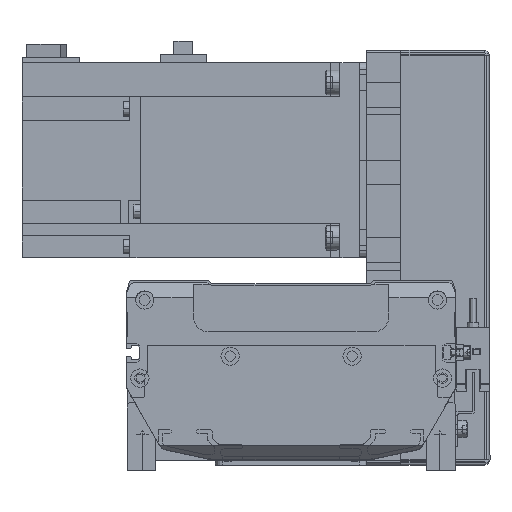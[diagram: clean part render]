
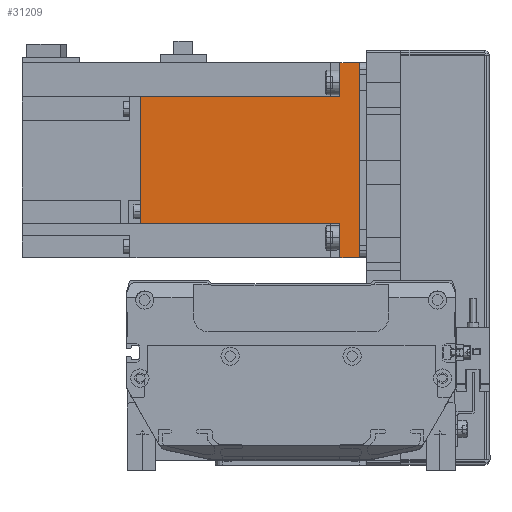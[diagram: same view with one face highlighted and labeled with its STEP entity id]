
A CAD part, front view. The second image highlights one B-rep face of the part: STEP entity #31209.
In plain terms, the highlighted planar face has unit normal (0, -1, 0) as drawn and (0, 0, 1) by its records, which use the part's own axes.
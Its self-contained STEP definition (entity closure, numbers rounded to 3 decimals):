
#45 = FACE_OUTER_BOUND ( 'NONE', #49812, .T. ) ;
#1217 = VERTEX_POINT ( 'NONE', #2743 ) ;
#2142 = AXIS2_PLACEMENT_3D ( 'NONE', #25749, #51827, #13779 ) ;
#2259 = VECTOR ( 'NONE', #9458, 1000. ) ;
#2585 = VECTOR ( 'NONE', #49908, 1000. ) ;
#2743 = CARTESIAN_POINT ( 'NONE',  ( -25.95, 8., 40. ) ) ;
#3276 = VECTOR ( 'NONE', #34469, 1000. ) ;
#5354 = LINE ( 'NONE', #46859, #18077 ) ;
#5496 = ORIENTED_EDGE ( 'NONE', *, *, #34082, .F. ) ;
#6351 = VERTEX_POINT ( 'NONE', #10761 ) ;
#7271 = DIRECTION ( 'NONE',  ( 1., 0., 0. ) ) ;
#8306 = CARTESIAN_POINT ( 'NONE',  ( -40., 89.8, 40. ) ) ;
#8314 = DIRECTION ( 'NONE',  ( 1., 0., 0. ) ) ;
#8920 = CARTESIAN_POINT ( 'NONE',  ( -40., 89.8, 40. ) ) ;
#9458 = DIRECTION ( 'NONE',  ( 0., -1., 0. ) ) ;
#9573 = CARTESIAN_POINT ( 'NONE',  ( -25.95, 89.8, 40. ) ) ;
#10761 = CARTESIAN_POINT ( 'NONE',  ( 25.95, 8., 40. ) ) ;
#10941 = CARTESIAN_POINT ( 'NONE',  ( 40., 0., 40. ) ) ;
#11533 = ORIENTED_EDGE ( 'NONE', *, *, #20961, .T. ) ;
#13069 = ORIENTED_EDGE ( 'NONE', *, *, #19826, .F. ) ;
#13779 = DIRECTION ( 'NONE',  ( -1., 0., 0. ) ) ;
#13954 = LINE ( 'NONE', #27164, #35335 ) ;
#15605 = ORIENTED_EDGE ( 'NONE', *, *, #47404, .F. ) ;
#17373 = LINE ( 'NONE', #8306, #3276 ) ;
#18077 = VECTOR ( 'NONE', #8314, 1000. ) ;
#19038 = CARTESIAN_POINT ( 'NONE',  ( -40., 8., 40. ) ) ;
#19826 = EDGE_CURVE ( 'NONE', #44590, #6351, #26500, .T. ) ;
#20398 = EDGE_CURVE ( 'NONE', #6351, #48936, #30501, .T. ) ;
#20447 = CARTESIAN_POINT ( 'NONE',  ( 25.95, 89.8, 40. ) ) ;
#20655 = VERTEX_POINT ( 'NONE', #19038 ) ;
#20961 = EDGE_CURVE ( 'NONE', #20655, #31519, #37734, .T. ) ;
#22645 = DIRECTION ( 'NONE',  ( 0., 1., 0. ) ) ;
#24751 = ORIENTED_EDGE ( 'NONE', *, *, #25405, .T. ) ;
#24824 = VERTEX_POINT ( 'NONE', #37461 ) ;
#25405 = EDGE_CURVE ( 'NONE', #31519, #36562, #13954, .T. ) ;
#25749 = CARTESIAN_POINT ( 'NONE',  ( -40., 89.8, 40. ) ) ;
#26500 = LINE ( 'NONE', #20447, #39839 ) ;
#27164 = CARTESIAN_POINT ( 'NONE',  ( 0., 0., 40. ) ) ;
#28471 = CARTESIAN_POINT ( 'NONE',  ( 40., 8., 40. ) ) ;
#30014 = LINE ( 'NONE', #9573, #33998 ) ;
#30501 = LINE ( 'NONE', #54119, #42465 ) ;
#30763 = LINE ( 'NONE', #54221, #2585 ) ;
#31209 = ADVANCED_FACE ( 'NONE', ( #45 ), #46917, .F. ) ;
#31519 = VERTEX_POINT ( 'NONE', #35676 ) ;
#33998 = VECTOR ( 'NONE', #22645, 1000. ) ;
#34082 = EDGE_CURVE ( 'NONE', #1217, #24824, #30014, .T. ) ;
#34469 = DIRECTION ( 'NONE',  ( 1., 0., 0. ) ) ;
#35193 = DIRECTION ( 'NONE',  ( 1., 0., 0. ) ) ;
#35335 = VECTOR ( 'NONE', #35193, 1000. ) ;
#35676 = CARTESIAN_POINT ( 'NONE',  ( -40., 0., 40. ) ) ;
#36562 = VERTEX_POINT ( 'NONE', #10941 ) ;
#37461 = CARTESIAN_POINT ( 'NONE',  ( -25.95, 89.8, 40. ) ) ;
#37734 = LINE ( 'NONE', #8920, #2259 ) ;
#38619 = EDGE_CURVE ( 'NONE', #36562, #48936, #30763, .T. ) ;
#39839 = VECTOR ( 'NONE', #55311, 1000. ) ;
#42465 = VECTOR ( 'NONE', #7271, 1000. ) ;
#44590 = VERTEX_POINT ( 'NONE', #47048 ) ;
#44658 = EDGE_CURVE ( 'NONE', #24824, #44590, #17373, .T. ) ;
#46859 = CARTESIAN_POINT ( 'NONE',  ( -40., 8., 40. ) ) ;
#46917 = PLANE ( 'NONE',  #2142 ) ;
#47048 = CARTESIAN_POINT ( 'NONE',  ( 25.95, 89.8, 40. ) ) ;
#47404 = EDGE_CURVE ( 'NONE', #20655, #1217, #5354, .T. ) ;
#47446 = ORIENTED_EDGE ( 'NONE', *, *, #38619, .T. ) ;
#48936 = VERTEX_POINT ( 'NONE', #28471 ) ;
#49812 = EDGE_LOOP ( 'NONE', ( #15605, #11533, #24751, #47446, #54241, #13069, #50273, #5496 ) ) ;
#49908 = DIRECTION ( 'NONE',  ( 0., 1., 0. ) ) ;
#50273 = ORIENTED_EDGE ( 'NONE', *, *, #44658, .F. ) ;
#51827 = DIRECTION ( 'NONE',  ( 0., 0., -1. ) ) ;
#54119 = CARTESIAN_POINT ( 'NONE',  ( -40., 8., 40. ) ) ;
#54221 = CARTESIAN_POINT ( 'NONE',  ( 40., 89.8, 40. ) ) ;
#54241 = ORIENTED_EDGE ( 'NONE', *, *, #20398, .F. ) ;
#55311 = DIRECTION ( 'NONE',  ( 0., -1., 0. ) ) ;
